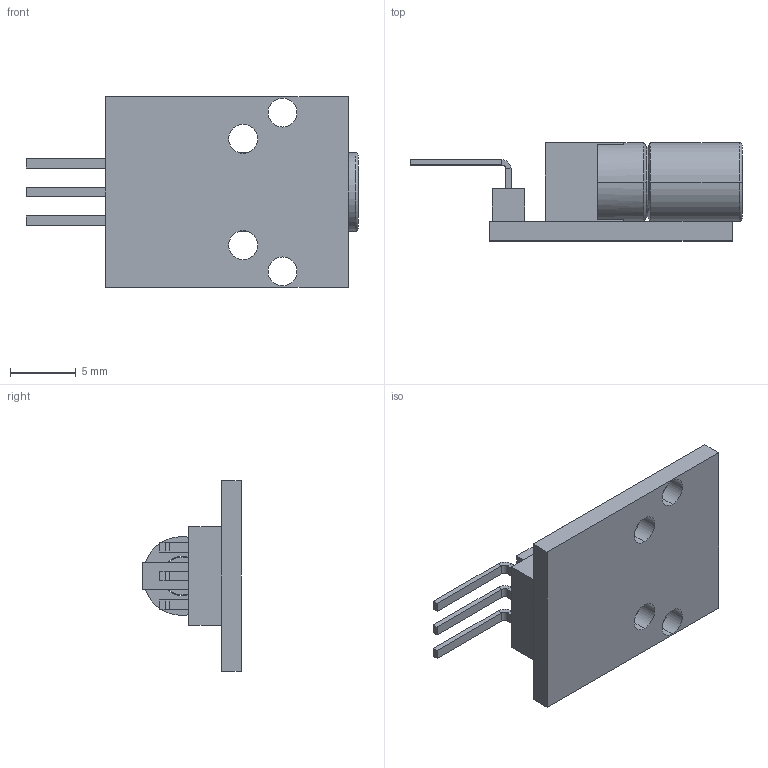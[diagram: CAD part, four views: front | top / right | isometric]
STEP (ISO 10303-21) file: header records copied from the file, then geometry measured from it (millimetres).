
FILE_DESCRIPTION (( 'STEP AP214' ), '1' );
FILE_NAME ('HW-483.STEP', '2023-12-10T17:09:07', ( 'admin' ), ( '' ), 'SwSTEP 2.0', 'SolidWorks 2020', '' );
FILE_SCHEMA (( 'AUTOMOTIVE_DESIGN' ));
Length unit declared in the file: millimetre
Products named in the file (1): HW-483
Bounding box: 25.3 x 7.5 x 14.5 mm (x, y, z)
Volume: 728.8 mm3; surface area: 1251.7 mm2
Topology: 4 solids, 4 shells, 100 faces, 315 edges, 234 vertices
Faces by surface type: plane 68, cylinder 24, cone 4, torus 2, sphere 2
Entity records: 4914 total; most frequent: CARTESIAN_POINT 1310, ORIENTED_EDGE 630, DIRECTION 515, EDGE_CURVE 315, VERTEX_POINT 234, VECTOR 185, LINE 185, AXIS2_PLACEMENT_3D 165
